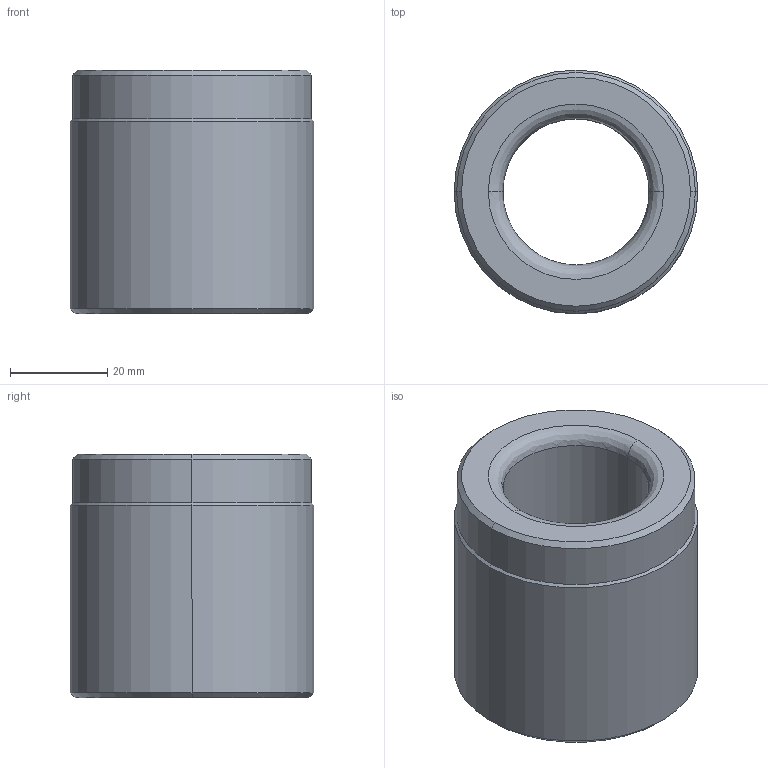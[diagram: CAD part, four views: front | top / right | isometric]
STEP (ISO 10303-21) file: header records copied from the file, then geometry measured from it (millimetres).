
FILE_DESCRIPTION((''),'2;1');
FILE_NAME('','2010-08-30T17:15:03+09:00',('misumi'),(''),'M/STEP i/f 1R2-14','CADmeister v5.1','');
FILE_SCHEMA(('AUTOMOTIVE_DESIGN'));
Length unit declared in the file: millimetre
Products named in the file (1): GBW30
Bounding box: 50 x 50 x 50 mm (x, y, z)
Volume: 61337.5 mm3; surface area: 14605.3 mm2
Topology: 1 solids, 1 shells, 20 faces, 40 edges, 22 vertices
Faces by surface type: cone 8, cylinder 6, revolution 4, plane 2
Entity records: 829 total; most frequent: DIRECTION 112, CARTESIAN_POINT 87, ORIENTED_EDGE 80, COLOUR_RGB 51, AXIS2_PLACEMENT_3D 47, CURVE_STYLE 46, PRESENTATION_STYLE_ASSIGNMENT 45, OVER_RIDING_STYLED_ITEM 44
